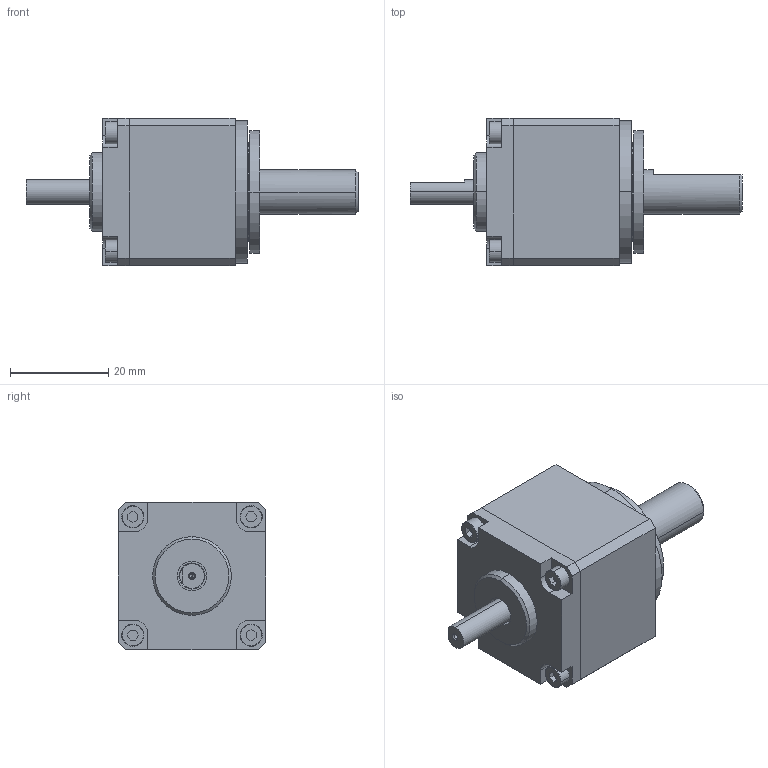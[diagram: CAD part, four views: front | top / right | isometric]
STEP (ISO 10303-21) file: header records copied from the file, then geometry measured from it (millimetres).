
FILE_DESCRIPTION (( 'STEP AP214' ), '1' );
FILE_NAME ('CSF-08-xxx-1U.STEP', '2022-05-08T08:10:23', ( 'PC' ), ( 'Microsoft' ), 'SwSTEP 2.0', 'SolidWorks 2016', '' );
FILE_SCHEMA (( 'AUTOMOTIVE_DESIGN' ));
Length unit declared in the file: millimetre
Products named in the file (18): CSF-08-交叉轴承外圈; CSF-08-1U-01_蕼偞; CSF-08-xxx-1U; 内六螺钉  M2.5×6_預設; 十字槽沉头螺钉  M3×6_預設; 种隊 2.5x5_蕼偞; CSF-08-1U-04_蕼偞; CSF-08-1U-07_蕼偞; CSF-08-1U-疏楷汜ん_蕼偞; 旮僱⑩粣創 618罕5_蕼偞; 柔性轴承19.63x14.22x3.3x3.1_預設; CSF-08-1U-05_蕼偞; CSF-08-1U-06_蕼偞; CSF-08-1U-03_蕼偞; CSF-08-1U-02_蕼偞; 躇猾蚐猾20x26x4_蕼偞; CSF-08蝠脫粣創_蕼偞; CSF-08-交叉轴承内圈
Assembly tree (25 placements, depth 3):
  CSF-08-xxx-1U
    CSF-08-1U-01_蕼偞
    CSF-08蝠脫粣創_蕼偞
      CSF-08-交叉轴承外圈
      CSF-08-交叉轴承内圈
    躇猾蚐猾20x26x4_蕼偞
    CSF-08-1U-02_蕼偞
    CSF-08-1U-03_蕼偞
    CSF-08-1U-06_蕼偞
    CSF-08-1U-疏楷汜ん_蕼偞
      CSF-08-1U-05_蕼偞
      柔性轴承19.63x14.22x3.3x3.1_預設
      旮僱⑩粣創 618罕5_蕼偞  x2
    CSF-08-1U-07_蕼偞
    CSF-08-1U-04_蕼偞
    种隊 2.5x5_蕼偞  x2
    十字槽沉头螺钉  M3×6_預設  x4
    内六螺钉  M2.5×6_預設  x4
Bounding box: 67.5 x 30 x 30 mm (x, y, z)
Volume: 26527.2 mm3; surface area: 23809.7 mm2
Topology: 51 solids, 51 shells, 1037 faces, 2321 edges, 1354 vertices
Faces by surface type: plane 346, cylinder 342, bspline 178, cone 151, torus 20
Entity records: 21265 total; most frequent: CARTESIAN_POINT 5562, DIRECTION 3116, ORIENTED_EDGE 2844, EDGE_CURVE 1422, AXIS2_PLACEMENT_3D 1289, VERTEX_POINT 891, EDGE_LOOP 781, CIRCLE 686
